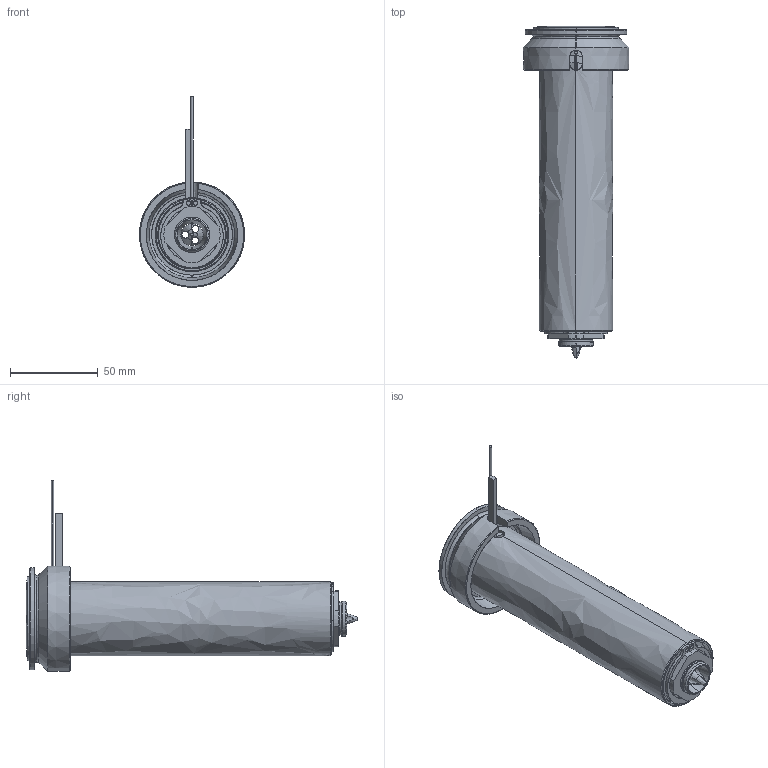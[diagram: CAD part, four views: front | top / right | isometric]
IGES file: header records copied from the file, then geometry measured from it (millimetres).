
Start section: SolidWorks IGES file using analytic representation for surfaces
Global section: file name: C:\Documents and Settings\ws-20\Desktop\TEM\UGEP6007-M-A-0 [Øf-1.6 ØC-16].IGS; native system: SolidWorks 2012; preprocessor: SolidWorks 2012; author: ws-20; date: 120427.094140; units: millimetre
Bounding box: 60 x 189.05 x 108.65 mm (x, y, z)
Surface area: 88878.4 mm2 (no closed solid volume)
Topology: 0 solids, 0 shells, 127 faces, 2280 edges, 2280 vertices
Faces by surface type: revolution 81, bspline 46
